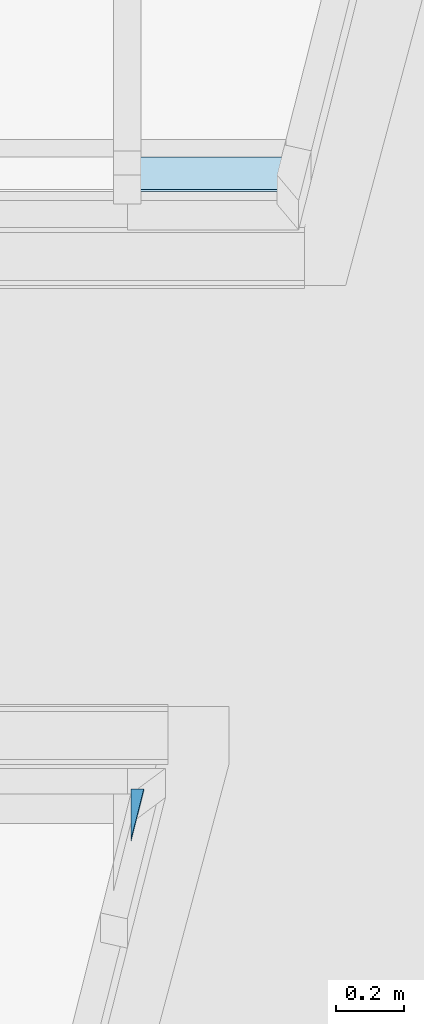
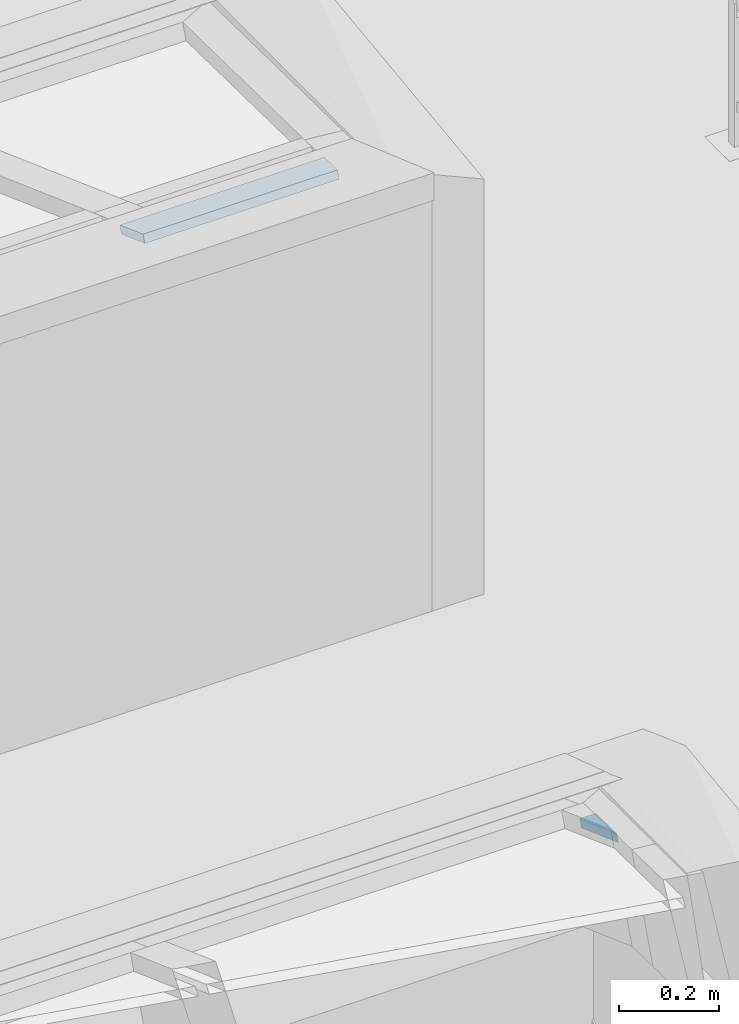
# One storey, part 7 of 20: 2 plates, 2 elements without a shape of their own.
"""IFC2X3 building model written with IfcOpenShell, lengths in millimetres."""

from ifc_helpers import new_model, entity, si_unit, converted_unit, derived_unit, money_unit, direction, frame, origin_with_axes, place, context, subcontext, project, spatial, faceted_brep, material, type_object, element, aggregate, save


model = new_model("IFC2X3")

# Units and contexts
model_context = context("Model", 3, precision=0.01, world=origin_with_axes(), true_north=direction((0.0, 1.0)))
plan_context = context("Plan", 3, precision=0.01, world=origin_with_axes(), true_north=direction((0.0, 1.0)))
body_context = subcontext(model_context, "Body", "Model", "MODEL_VIEW")
ifc_project = project(units=[si_unit("LENGTHUNIT", "METRE", prefix="MILLI"), si_unit("AREAUNIT", "SQUARE_METRE"), si_unit("VOLUMEUNIT", "CUBIC_METRE"), converted_unit("PLANEANGLEUNIT", "DEGREE", entity("IfcPlaneAngleMeasure", 0.0174532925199), si_unit("PLANEANGLEUNIT", "RADIAN"), dimensions=[0, 0, 0, 0, 0, 0, 0]), si_unit("SOLIDANGLEUNIT", "STERADIAN"), money_unit("EUR"), converted_unit("TIMEUNIT", "Year", entity("IfcTimeMeasure", 31556926.0), si_unit("TIMEUNIT", "SECOND"), dimensions=[0, 0, 1, 0, 0, 0, 0]), si_unit("MASSUNIT", "GRAM", prefix="KILO"), si_unit("THERMODYNAMICTEMPERATUREUNIT", "DEGREE_CELSIUS"), si_unit("LUMINOUSINTENSITYUNIT", "LUMEN"), si_unit("ENERGYUNIT", "JOULE", prefix="MEGA"), derived_unit("THERMALCONDUCTANCEUNIT", [(si_unit("POWERUNIT", "WATT"), 1), (si_unit("LENGTHUNIT", "METRE"), -1), (si_unit("THERMODYNAMICTEMPERATUREUNIT", "KELVIN"), -1)]), derived_unit("SPECIFICHEATCAPACITYUNIT", [(si_unit("ENERGYUNIT", "JOULE"), 1), (si_unit("MASSUNIT", "GRAM", prefix="KILO"), -1), (si_unit("THERMODYNAMICTEMPERATUREUNIT", "KELVIN"), -1)]), derived_unit("MASSDENSITYUNIT", [(si_unit("MASSUNIT", "GRAM", prefix="KILO"), 1), (si_unit("VOLUMEUNIT", "CUBIC_METRE"), -1)])], contexts=[model_context, plan_context])

# Site, building, storey
site_placement = place(None, origin_with_axes())
site = spatial("IfcSite", under=ifc_project, at=site_placement, Name="Site", CompositionType="ELEMENT")
building_placement = place(site_placement, origin_with_axes())
building = spatial("IfcBuilding", under=site, at=building_placement, Name="Naam gebouw", CompositionType="ELEMENT")
storey_placement = place(building_placement, frame((0.0, 0.0, 7920.0), z_axis=(0.0, 0.0, 1.0), x_axis=(1.0, 0.0, 0.0)))
storey = spatial("IfcBuildingStorey", under=building, at=storey_placement, Name="2e verdieping", CompositionType="ELEMENT", Elevation=7920.0)

# Curtain wall, plate
curtain_wall_type = type_object("IfcCurtainWallType", Name="Curtain Wall Type", PredefinedType="NOTDEFINED")
curtain_wall_1_placement = place(storey_placement, frame((13117.0960946, 24464.1241022, 780.165825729), z_axis=(0.0, 0.0, 1.0), x_axis=(1.0, 0.0, 0.0)))
curtain_wall_1 = element("IfcCurtainWall", 1, at=curtain_wall_1_placement, inside=storey, type_object=curtain_wall_type, Name="21_Vliesgevel_Wand-x")
ifc_material_1 = material(Name="Metaal - Aluminium")
plate_type_1 = type_object("IfcPlateType", Name="Distinct Panel 451 x 100 x 20", PredefinedType="CURTAIN_PANEL")
plate_1_placement = place(curtain_wall_1_placement, frame((8681.54261946, -555.478614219, 377.853212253), z_axis=(0.0, 0.0, 1.0), x_axis=(-1.0, 0.0, 0.0)))
plate_1 = element("IfcPlate", 2, at=plate_1_placement, type_object=plate_type_1, material=ifc_material_1, Name="_Vliesgevel - paneel_Paneel-x", ObjectType="CURTAIN_PANEL", context=body_context, shape_type="Brep", body=[
    faceted_brep([(-201.584844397, 29.2496221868, 0.00421411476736), (-201.584844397, 22.4092193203, 18.7980665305), (249.513886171, 22.4091741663, 18.7980500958), (249.513886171, 29.2495770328, 0.00419768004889), (-225.354421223, -64.6953687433, -34.1889662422), (-225.354421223, -71.5357716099, -15.3951138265), (249.513886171, -71.5357716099, -15.3951138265), (249.513886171, -64.6953687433, -34.1889662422)], [[[0, 1, 2, 3]], [[4, 5, 1, 0]], [[1, 5, 6, 2]], [[3, 2, 6, 7]], [[0, 3, 7, 4]], [[7, 6, 5, 4]]]),
])
aggregate(curtain_wall_1, [plate_1])

curtain_wall_2_placement = place(storey_placement, frame((20039.1248272, 21694.0652432, 780.165825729), z_axis=(0.0, 0.0, 1.0), x_axis=(1.0, 0.0, 0.0)))
curtain_wall_2 = element("IfcCurtainWall", 3, at=curtain_wall_2_placement, inside=storey, type_object=curtain_wall_type, Name="21_Vliesgevel_Wand-x")
ifc_material_2 = material(Name="Glas")
plate_type_2 = type_object("IfcPlateType", Name="Main Panel 38 x 160 x 20", PredefinedType="CURTAIN_PANEL")
plate_2_placement = place(curtain_wall_2_placement, frame((1537.09762692, 336.042360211, 53.3661124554), z_axis=(0.0, 0.0, 1.0), x_axis=(-1.0, 0.0, 0.0)))
plate_2 = element("IfcPlate", 4, at=plate_2_placement, type_object=plate_type_2, material=ifc_material_2, Name="_Vliesgevel - paneel_Paneel-x", ObjectType="CURTAIN_PANEL", context=body_context, shape_type="Brep", body=[
    faceted_brep([(27.0976227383, 54.0158880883, 9.01839771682), (27.0976227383, 47.1754852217, 27.8122501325), (27.0976227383, -103.057773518, -26.8681842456), (27.0976227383, -96.2173706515, -45.6620366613), (-10.9136552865, -96.2173706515, -45.6620366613), (-10.9136552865, -103.057773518, -26.8681842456)], [[[0, 1, 2, 3]], [[4, 5, 1, 0]], [[1, 5, 2]], [[3, 2, 5, 4]], [[0, 3, 4]]]),
])
aggregate(curtain_wall_2, [plate_2])

save(model, "model.ifc")
